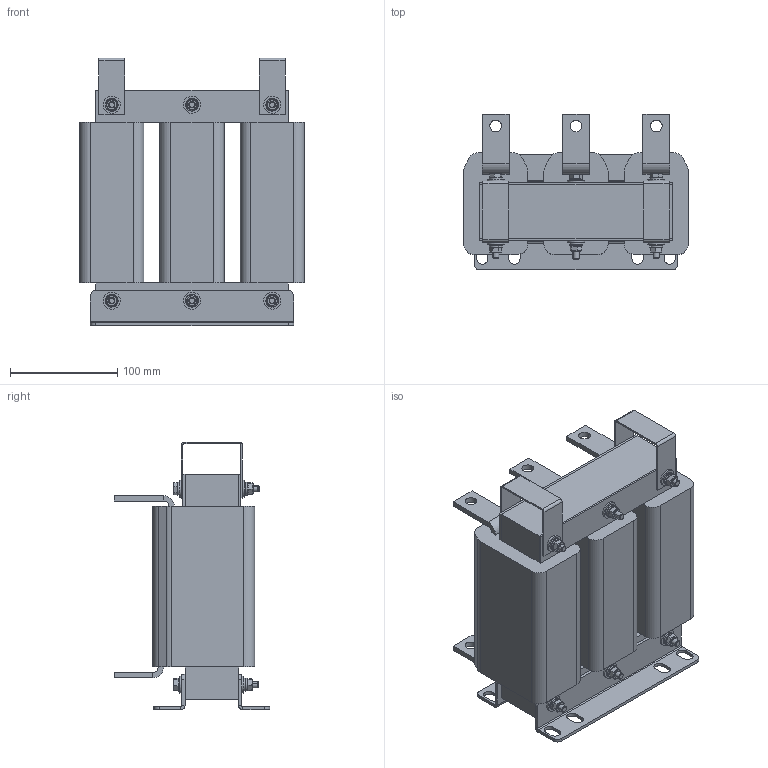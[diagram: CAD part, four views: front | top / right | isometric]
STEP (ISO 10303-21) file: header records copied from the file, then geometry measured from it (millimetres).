
FILE_DESCRIPTION (( 'STEP AP203' ), '1' );
FILE_NAME ('Ñåòåâîé äðîññåëü _ ISF-75_157-4.STEP', '2025-07-14T09:31:50', ( '' ), ( '' ), 'SwSTEP 2.0', 'SolidWorks 2021', '' );
FILE_SCHEMA (( 'CONFIG_CONTROL_DESIGN' ));
Length unit declared in the file: millimetre
Products named in the file (14): 栫謱毿膻獥75; Øàéáà ïëîñêàÿ DIN 125 (A)_Œ6; Êàòóøêà ñ êëåììàìè; Ãàéêà DIN 934_Œ6; Ñêîáà òàêåëàæíàÿ; Øàéáà ïðóæèííàÿ DIN 127 (A)_Œ6; Ïëàñòèíà ïðèæèìíàÿ; Êëåììà âåðõíÿÿ; Áîëò DIN 933_Œ6å75; 咈櫡; Êëåììà íèæíÿÿ; Øàéáà ïëîñêàÿ DIN 9021_Œ6; Ñåòåâîé äðîññåëü _ ISF-75_157-4; Êàòóøêà
Assembly tree (55 placements, depth 3):
  Ñåòåâîé äðîññåëü _ ISF-75_157-4
    栫謱毿膻獥75
    咈櫡  x2
    Êàòóøêà ñ êëåììàìè  x3
      Êàòóøêà
      Êëåììà íèæíÿÿ
      Êëåììà âåðõíÿÿ
    Ïëàñòèíà ïðèæèìíàÿ  x2
    Ñêîáà òàêåëàæíàÿ  x2
    Øàéáà ïëîñêàÿ DIN 9021_Œ6  x12
    Øàéáà ïëîñêàÿ DIN 125 (A)_Œ6  x12
    Øàéáà ïðóæèííàÿ DIN 127 (A)_Œ6  x6
    Ãàéêà DIN 934_Œ6  x6
    Áîëò DIN 933_Œ6å75  x6
Bounding box: 210 x 145 x 250 mm (x, y, z)
Volume: 3170712 mm3; surface area: 488642.1 mm2
Topology: 58 solids, 58 shells, 884 faces, 1980 edges, 1230 vertices
Faces by surface type: plane 420, cylinder 266, cone 186, torus 12
Entity records: 9811 total; most frequent: CARTESIAN_POINT 1413, DIRECTION 1293, ORIENTED_EDGE 1112, EDGE_CURVE 556, AXIS2_PLACEMENT_3D 477, VERTEX_POINT 349, LINE 339, VECTOR 339
